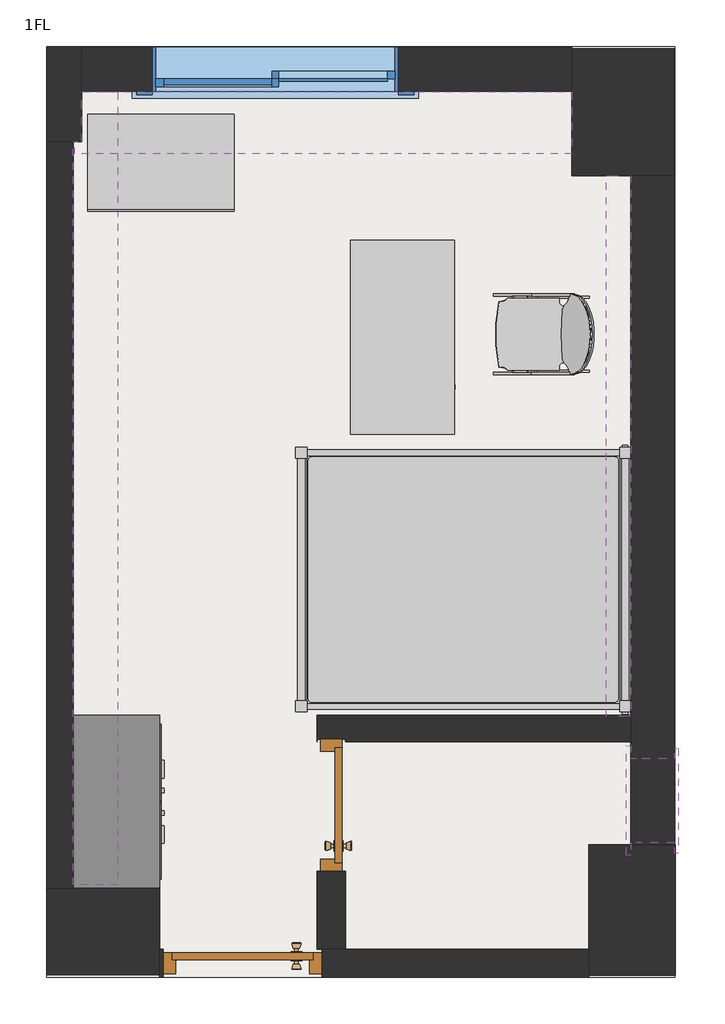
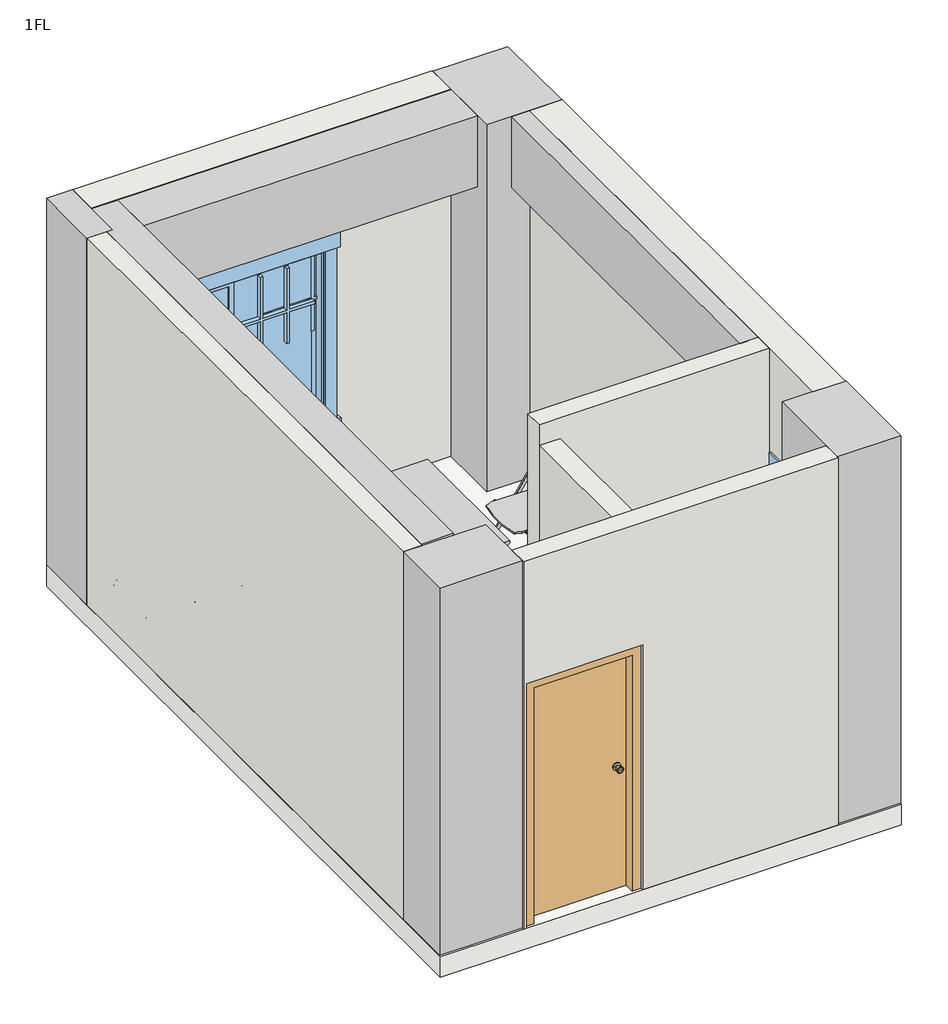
# One storey: 6 walls, 5 furniture elements, 4 columns, 3 beams, 2 doors, 2 windows, 1 slab.
"""IFC4 building model written with IfcOpenShell, lengths in millimetres."""

from ifc_helpers import new_model, si_unit, frame, origin, place, context, project, spatial, polyline, outline, extrude, faceted_brep, transform, mapped, element, save
from components import column_49_x_74cm_deb33982, door_75_x_200_cm_865d52c3, door_90_x_200_cm_73eb9ed9, furniture_3fc448d0, furniture_719fa588, furniture_f24e557b, furniture_dfe98725, china_bed_4dd21ba8, furniture_dc80c863, window_1db3b5fd, window_a10a5faa

model = new_model("IFC4")

# Units and contexts
model_context = context("Model", 3, world=origin())
ifc_project = project(units=[si_unit("LENGTHUNIT", "METRE", prefix="MILLI")], contexts=[model_context])

# Site, building, storey
site = spatial("IfcSite", under=ifc_project)
building = spatial("IfcBuilding", under=site)
storey = spatial("IfcBuildingStorey", under=building, Name="1FL", Elevation=300.0)

# Beams
placement = place(None, origin())
element("IfcBeam", 1, ObjectType="混凝土樑-矩形 : 14 x 303cm", at=placement, inside=storey, context=model_context, shape_type="SweptSolid", body=[
    extrude(outline(polyline([(2375.4977464, -2205.3821637), (2235.4977464, -2205.3821637), (2235.4977464, 857.1369238), (2375.4977464, 857.1369238), (2375.4977464, -2205.3821637)])), frame((0.0, 0.0, 2720.0), z_axis=(0.0, 0.0, 1.0), x_axis=(1.0, 0.0, 0.0)), (0.0, 0.0, 1.0), 580.0),
])
element("IfcBeam", 2, ObjectType="混凝土樑-矩形 : 25 x 451.5cm", at=placement, inside=storey, context=model_context, shape_type="Brep", body=[
    faceted_brep([(-534.5022536, 1331.667972, 3300.0), (-534.5022536, 1331.667972, 2800.0), (-736.8833533, 1331.667972, 2800.0), (-736.8833533, 1331.667972, 3300.0), (-534.5022536, -3161.032028, 3300.0), (-534.5022536, 982.1369238, 3300.0), (-736.8833533, 1048.967972, 3300.0), (-784.5022536, 1048.967972, 3300.0), (-784.5022536, -3161.032028, 3300.0), (-784.5022536, -3161.032028, 2800.0), (-784.5022536, 1048.967972, 2800.0), (-534.5022536, 982.1369238, 2800.0), (-534.5022536, -3161.032028, 2800.0), (-778.221975, 1048.967972, 2800.0), (-736.8833533, 1048.967972, 2800.0)], [[[0, 1, 2, 3]], [[4, 5, 0, 3, 6, 7, 8]], [[9, 8, 7, 10]], [[1, 11, 12, 9, 10, 13, 14, 2]], [[1, 0, 5, 4, 12, 11]], [[4, 8, 9, 12]], [[6, 14, 13, 10, 7]], [[14, 6, 3, 2]]]),
])
element("IfcBeam", 3, ObjectType="混凝土樑-矩形 : 35 x 283cm", at=placement, inside=storey, context=model_context, shape_type="Brep", body=[
    faceted_brep([(2041.778025, 982.1369238, 3300.0), (2041.778025, 1332.1369238, 3300.0), (-736.8833533, 1332.1369238, 3300.0), (-736.8833533, 1331.667972, 3300.0), (-534.5022536, 1331.667972, 3300.0), (-534.5022536, 982.1369238, 3300.0), (2041.778025, 1332.1369238, 2720.0), (-736.8833533, 1332.1369238, 2720.0), (2041.778025, 982.1369238, 2720.0), (-778.221975, 982.1369238, 2720.0), (-778.221975, 1048.967972, 2720.0), (-736.8833533, 1048.967972, 2720.0), (-534.5022536, 982.1369238, 2800.0), (-778.221975, 982.1369238, 2800.0), (-778.221975, 1048.967972, 2800.0), (-736.8833533, 1048.967972, 2800.0), (-736.8833533, 1331.667972, 2800.0), (-534.5022536, 1331.667972, 2800.0)], [[[0, 1, 2, 3, 4, 5]], [[1, 6, 7, 2]], [[8, 9, 10, 11, 7, 6]], [[9, 8, 0, 5, 12, 13]], [[10, 9, 13, 14]], [[1, 0, 8, 6]], [[11, 10, 14, 15]], [[2, 7, 11, 15, 16, 3]], [[17, 4, 3, 16]], [[17, 16, 15, 14, 13, 12]], [[4, 17, 12, 5]]]),
])

# Columns
element("IfcColumn", 4, ObjectType="混凝土柱-矩形 : 20 x 54cm", at=placement, inside=storey, context=model_context, shape_type="Brep", body=[
    faceted_brep([(-736.8833533, 1588.967972, 3300.0), (-936.8833533, 1588.967972, 3300.0), (-936.8833533, 1048.967972, 3300.0), (-784.5022536, 1048.967972, 3300.0), (-736.8833533, 1048.967972, 3300.0), (-736.8833533, 1331.667972, 3300.0), (-736.8833533, 1588.967972, 300.0), (-736.8833533, 1048.967972, 300.0), (-936.8833533, 1048.967972, 300.0), (-936.8833533, 1588.967972, 300.0), (-736.8833533, 1048.967972, 2800.0)], [[[0, 1, 2, 3, 4, 5]], [[6, 7, 8, 9]], [[1, 0, 6, 9]], [[2, 1, 9, 8]], [[4, 3, 2, 8, 7, 10]], [[0, 5, 4, 10, 7, 6]]]),
])
element("IfcColumn", 5, ObjectType="混凝土柱-矩形 : 49 x 64cm", at=placement, inside=storey, context=model_context, shape_type="SweptSolid", body=[
    extrude(outline(polyline([(-934.7018001, -3179.3416193), (-294.7018001, -3179.3416193), (-294.7018001, -3669.3416193), (-934.7018001, -3669.3416193), (-934.7018001, -3179.3416193)])), frame((0.0, 0.0, 300.0), z_axis=(0.0, 0.0, 1.0), x_axis=(1.0, 0.0, 0.0)), (0.0, 0.0, 1.0), 3000.0),
])
column_49_x_74cm_shape = column_49_x_74cm_deb33982(model_context)
element("IfcColumn", 6, ObjectType="混凝土柱-矩形 : 49 x 74cm", at=placement, inside=storey, context=model_context, shape_type="MappedRepresentation", body=[
    mapped(column_49_x_74cm_shape, transform((2382.7171048, -3302.3657238, 0.0), x_axis=(1.0, 0.0, 0.0), y_axis=(0.0, 1.0, 0.0), z_axis=(0.0, 0.0, 1.0))),
])
element("IfcColumn", 7, ObjectType="混凝土柱-矩形 : 58 x 72cm", at=placement, inside=storey, context=model_context, shape_type="SweptSolid", body=[
    extrude(outline(polyline([(2621.778025, 1577.1369238), (2621.778025, 857.1369238), (2041.778025, 857.1369238), (2041.778025, 1577.1369238), (2621.778025, 1577.1369238)])), frame((0.0, 0.0, 300.0), z_axis=(0.0, 0.0, 1.0), x_axis=(1.0, 0.0, 0.0)), (0.0, 0.0, 1.0), 3000.0),
])

# Doors
door_75_x_200_cm_shape = door_75_x_200_cm_865d52c3(model_context)
element("IfcDoor", 8, ObjectType="單開-矩形- (1) : 75 x 200 cm", at=placement, inside=storey, context=model_context, shape_type="MappedRepresentation", body=[
    mapped(door_75_x_200_cm_shape, transform((887.7171048, -2709.327457, 300.0), x_axis=(0.0, -1.0, 0.0), y_axis=(1.0, 0.0, 0.0), z_axis=(0.0, 0.0, 1.0))),
])
door_90_x_200_cm_shape = door_90_x_200_cm_73eb9ed9(model_context)
element("IfcDoor", 9, ObjectType="單開-矩形- (1) : 90 x 200 cm", at=placement, inside=storey, context=model_context, shape_type="MappedRepresentation", body=[
    mapped(door_90_x_200_cm_shape, transform((175.2981999, -3394.327457, 300.0), x_axis=(1.0, 0.0, 0.0), y_axis=(0.0, 1.0, 0.0), z_axis=(0.0, 0.0, 1.0))),
])

# Furniture
furniture_shape = furniture_3fc448d0(model_context)
element("IfcFurniture", 10, ObjectType="可摺疊椅 : 可摺疊椅", at=placement, inside=storey, context=model_context, shape_type="MappedRepresentation", body=[
    mapped(furniture_shape, transform((2140.4977464, 187.6342762, 300.0), x_axis=(0.0, -1.0000000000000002, 0.0), y_axis=(1.0000000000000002, 0.0, 0.0), z_axis=(0.0, 0.0, 1.0))),
])
furniture_2_shape = furniture_719fa588(model_context)
element("IfcFurniture", 11, ObjectType="桌子_009 : SB 6165 03 W1900*D590*H720", at=placement, inside=storey, context=model_context, shape_type="MappedRepresentation", body=[
    mapped(furniture_2_shape, transform((925.026465, -58.5193524, 300.0), x_axis=(0.0, 1.0, 0.0), y_axis=(-1.0, 0.0, 0.0), z_axis=(0.0, 0.0, 1.0))),
])
furniture_3_shape = furniture_f24e557b(model_context)
furniture_4_shape = furniture_dfe98725(model_context)
element("IfcFurniture", 12, ObjectType="邊櫃_002 : DB 3020N 01 W465*D550*H650", at=placement, inside=storey, context=model_context, shape_type="MappedRepresentation", body=[
    mapped(furniture_3_shape, transform((-287.9308905, 929.6989444, 300.0), x_axis=(1.0, 0.0, 0.0), y_axis=(0.0, 1.0, 0.0), z_axis=(0.0, 0.0, 1.0))),
    mapped(furniture_4_shape, transform((-287.9308905, 929.6989444, 300.0), x_axis=(1.0, 0.0, 0.0), y_axis=(0.0, 1.0, 0.0), z_axis=(0.0, 0.0, 1.0))),
])
china_bed_shape = china_bed_4dd21ba8(model_context)
element("IfcFurniture", 13, ObjectType="臥床_001 : China Bed", at=placement, inside=storey, context=model_context, shape_type="MappedRepresentation", body=[
    mapped(china_bed_shape, transform((2375.4977464, -1430.3252022, 300.0), x_axis=(0.0, 1.0000000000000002, 0.0), y_axis=(-1.0000000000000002, 0.0, 0.0), z_axis=(0.0, 0.0, 1.0))),
])
furniture_5_shape = furniture_dc80c863(model_context)
element("IfcFurniture", 14, ObjectType="Wardrobe : 48\" x 72\" x 24\"", at=placement, inside=storey, context=model_context, shape_type="MappedRepresentation", body=[
    mapped(furniture_5_shape, transform((-1123.2410632, -2420.1483595, 300.0), x_axis=(0.0, 1.0, 0.0), y_axis=(-1.0, 0.0, 0.0), z_axis=(0.0, 0.0, 1.0))),
])

# Slab
element("IfcSlab", 15, ObjectType="1FL地板_15cm", at=placement, inside=storey, context=model_context, shape_type="SweptSolid", body=[
    extrude(outline(polyline([(2625.4977464, 1588.967972), (2625.4977464, -3684.327457), (-936.8833533, -3684.327457), (-936.8833533, 1588.967972), (2625.4977464, 1588.967972)])), frame((0.0, 0.0, 130.0), z_axis=(0.0, 0.0, 1.0), x_axis=(1.0, 0.0, 0.0)), (0.0, 0.0, 1.0), 170.0),
])

# Walls
element("IfcWall", 16, ObjectType="RC 牆 25cm", at=placement, inside=storey, context=model_context, shape_type="SweptSolid", body=[
    extrude(outline(polyline([(300.0, 2041.778025), (3300.0, 2041.778025), (3300.0, -736.8833533), (300.0, -736.8833533), (300.0, 2041.778025)]), holes=[polyline([(2332.0, -336.8833533), (2332.0, 1058.1166467), (942.0, 1058.1166467), (942.0, -336.8833533), (2332.0, -336.8833533)])]), frame((0.0, 1335.672543, 0.0), z_axis=(0.0, 1.0, 0.0), x_axis=(0.0, 0.0, 1.0)), (0.0, 0.0, 1.0), 250.0),
])
element("IfcWall", 17, ObjectType="RC 牆 25cm", at=placement, inside=storey, context=model_context, shape_type="Brep", body=[
    faceted_brep([(2375.4977464, 857.1369238, 300.0), (2375.4977464, -2199.327457, 300.0), (2375.4977464, -2349.327457, 300.0), (2375.4977464, -2932.3657238, 300.0), (2375.4977464, -2932.3657238, 3300.0), (2375.4977464, -2349.327457, 3300.0), (2375.4977464, -2199.327457, 3300.0), (2375.4977464, 857.1369238, 3300.0), (2375.4977464, -2442.5157238, 2400.0), (2375.4977464, -2922.5157238, 2400.0), (2375.4977464, -2922.5157238, 1900.0), (2375.4977464, -2442.5157238, 1900.0), (2625.4977464, 857.1369238, 300.0), (2625.4977464, 857.1369238, 3300.0), (2625.4977464, -2932.3657238, 3300.0), (2625.4977464, -2932.3657238, 300.0), (2625.4977464, -2442.5157238, 2400.0), (2625.4977464, -2442.5157238, 1900.0), (2625.4977464, -2922.5157238, 1900.0), (2625.4977464, -2922.5157238, 2400.0)], [[[0, 1, 2, 3, 4, 5, 6, 7], [8, 9, 10, 11]], [[12, 13, 14, 15], [16, 17, 18, 19]], [[3, 2, 1, 0, 12, 15]], [[4, 3, 15, 14]], [[7, 6, 5, 4, 14, 13]], [[0, 7, 13, 12]], [[17, 16, 8, 11]], [[18, 17, 11, 10]], [[19, 18, 10, 9]], [[16, 19, 9, 8]]]),
])
element("IfcWall", 18, ObjectType="RC 牆 15cm", at=placement, inside=storey, context=model_context, shape_type="SweptSolid", body=[
    extrude(outline(polyline([(-934.5022536, -3179.3416193), (-934.5022536, 1048.967972), (-784.5022536, 1048.967972), (-784.5022536, -3179.3416193), (-934.5022536, -3179.3416193)])), frame((0.0, 0.0, 300.0), z_axis=(0.0, 0.0, 1.0), x_axis=(1.0, 0.0, 0.0)), (0.0, 0.0, 1.0), 3000.0),
])
element("IfcWall", 19, ObjectType="RC 牆 15cm", at=placement, inside=storey, context=model_context, shape_type="Brep", body=[
    faceted_brep([(2375.4977464, -2199.327457, 300.0), (595.4977464, -2199.327457, 300.0), (595.4977464, -2199.327457, 3300.0), (2375.4977464, -2199.327457, 3300.0), (2375.4977464, -2349.327457, 300.0), (2375.4977464, -2349.327457, 3300.0), (595.4977464, -2349.327457, 3300.0), (595.4977464, -2349.327457, 300.0), (597.7171048, -2349.327457, 300.0), (597.7171048, -2349.327457, 2300.0), (757.7171048, -2349.327457, 2300.0), (757.7171048, -2349.327457, 300.0), (757.7171048, -2334.327457, 300.0), (597.7171048, -2334.327457, 300.0), (597.7171048, -2334.327457, 2300.0), (757.7171048, -2334.327457, 2300.0)], [[[0, 1, 2, 3]], [[4, 5, 6, 7, 8, 9, 10, 11]], [[1, 0, 4, 11, 12, 13, 8, 7]], [[2, 1, 7, 6]], [[3, 2, 6, 5]], [[0, 3, 5, 4]], [[13, 14, 9, 8]], [[15, 12, 11, 10]], [[14, 15, 10, 9]], [[14, 13, 12, 15]]]),
])
element("IfcWall", 20, ObjectType="RC 牆 13cm", at=placement, inside=storey, context=model_context, shape_type="Brep", body=[
    faceted_brep([(-294.7018001, -3524.327457, 300.0), (-294.7018001, -3524.327457, 3300.0), (2137.7171048, -3524.327457, 3300.0), (2137.7171048, -3524.327457, 300.0), (757.7171048, -3524.327457, 300.0), (625.2981999, -3524.327457, 300.0), (625.2981999, -3524.327457, 2300.0), (-274.7018001, -3524.327457, 2300.0), (-274.7018001, -3524.327457, 300.0), (2137.7171048, -3684.327457, 300.0), (2137.7171048, -3684.327457, 3300.0), (-294.7018001, -3684.327457, 3300.0), (-294.7018001, -3684.327457, 300.0), (-274.7018001, -3684.327457, 300.0), (-274.7018001, -3684.327457, 2300.0), (625.2981999, -3684.327457, 2300.0), (625.2981999, -3684.327457, 300.0)], [[[0, 1, 2, 3, 4, 5, 6, 7, 8]], [[9, 10, 11, 12, 13, 14, 15, 16]], [[3, 9, 16, 5, 4]], [[12, 0, 8, 13]], [[1, 0, 12, 11]], [[2, 1, 11, 10]], [[3, 2, 10, 9]], [[15, 6, 5, 16]], [[6, 15, 14, 7]], [[7, 14, 13, 8]]]),
])
element("IfcWall", 21, ObjectType="RC 牆 13cm", at=placement, inside=storey, context=model_context, shape_type="Brep", body=[
    faceted_brep([(757.7171048, -3524.327457, 3130.0), (757.7171048, -3524.327457, 300.0), (757.7171048, -3084.327457, 300.0), (757.7171048, -3084.327457, 2300.0), (757.7171048, -2349.327457, 2300.0), (757.7171048, -2349.327457, 3130.0), (597.7171048, -3524.327457, 300.0), (597.7171048, -3524.327457, 3130.0), (597.7171048, -2349.327457, 3130.0), (597.7171048, -2349.327457, 2300.0), (597.7171048, -3084.327457, 2300.0), (597.7171048, -3084.327457, 300.0), (625.2981999, -3524.327457, 300.0)], [[[0, 1, 2, 3, 4, 5]], [[6, 7, 8, 9, 10, 11]], [[1, 12, 6, 11, 2]], [[8, 5, 4, 9]], [[1, 0, 7, 6, 12]], [[0, 5, 8, 7]], [[10, 3, 2, 11]], [[3, 10, 9, 4]]]),
])

# Windows
window_shape = window_1db3b5fd(model_context)
element("IfcWindow", 22, ObjectType="窗_002 : 窗_002", at=placement, inside=storey, context=model_context, shape_type="MappedRepresentation", body=[
    mapped(window_shape, transform((11.8666467, 1460.672543, 300.0), x_axis=(-1.0, 0.0, 0.0), y_axis=(0.0, -1.0, 0.0), z_axis=(0.0, 0.0, 1.0))),
])
window_2_shape = window_a10a5faa(model_context)
element("IfcWindow", 23, ObjectType="Casement Dbl with Trim : 48\" x 48\"", at=placement, inside=storey, context=model_context, shape_type="MappedRepresentation", body=[
    mapped(window_2_shape, transform((2519.5477464, -2682.5157238, 985.6), x_axis=(0.0, 1.0, 0.0), y_axis=(-1.0, 0.0, 0.0), z_axis=(0.0, 0.0, 1.0))),
])

save(model, "model.ifc")
